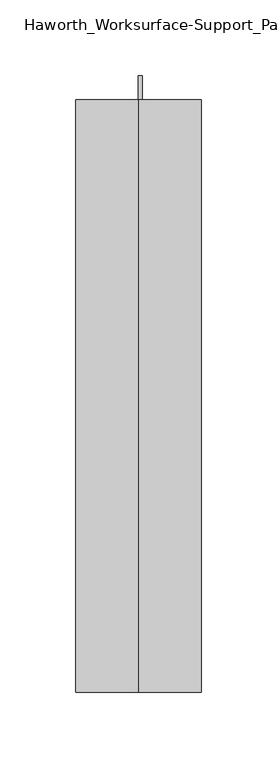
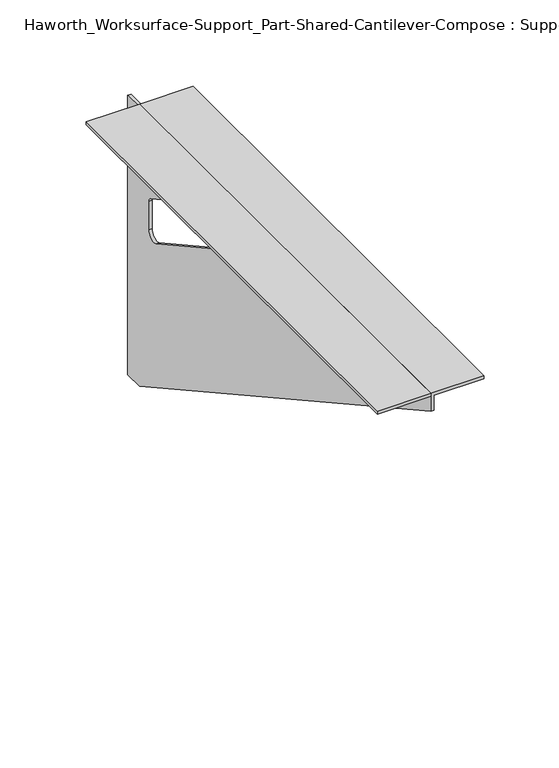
"""IFC4 building model written with IfcOpenShell, lengths in millimetres: furniture geometry, Haworth_Worksurface-Support_Part-Shared-Cantilever-Compose : Support."""

from ifc_helpers import new_model, si_unit, frame, origin, place, context, project, spatial, polyline, circle_curve, outline, extrude, source, transform, mapped, element, save
from ifc_brep_helpers import plane_surface, revolved_surface, advanced_brep


def haworth_worksurface_support_part_shared_cantilever_compose_b6f0c20a(model_context):
    return source(origin(), model_context, "Body", "SolidModel", [
        extrude(outline(polyline([(214.6839452, 165.3715234), (214.6839452, -225.1534766), (173.4089452, -225.1534766), (173.4089452, 165.3715234), (214.6839452, 165.3715234)])), frame((0.0, 0.0, 702.46875), z_axis=(0.0, 0.0, 1.0), x_axis=(1.0, 0.0, 0.0)), (0.0, 0.0, 1.0), 2.38125),
        advanced_brep(
        [(217.090625, 181.2465234, 473.86875), (217.090625, 181.2465234, 702.46875), (217.090625, 165.3715234, 702.46875), (217.090625, -225.1534766, 702.46875), (217.090625, -225.1534766, 690.1317568), (217.090625, 165.3715234, 473.86875), (217.090625, 97.9365954, 664.36875), (217.090625, 101.0128671, 663.5738425), (217.090625, 150.919529, 635.9367776), (217.090625, 152.6715234, 633.0985246), (217.090625, 152.6715234, 609.5881969), (217.090625, 143.3241408, 603.9901439), (217.090625, 51.6029469, 654.7830539), (217.090625, 54.2820519, 664.36875), (214.709375, 181.2465234, 473.86875), (214.709375, 165.3715234, 473.86875), (214.709375, -225.1534766, 690.1317568), (214.709375, -225.1534766, 704.85), (214.709375, 165.3715234, 704.85), (214.709375, 165.3715234, 702.46875), (214.709375, 181.2465234, 702.46875), (214.709375, 97.9365954, 664.36875), (214.709375, 54.2820519, 664.36875), (214.709375, 51.6029469, 654.7830539), (214.709375, 143.3241408, 603.9901439), (214.709375, 152.6715234, 609.5881969), (214.709375, 152.6715234, 633.0985246), (214.709375, 150.919529, 635.9367776), (214.709375, 101.0128671, 663.5738425), (255.984375, -225.1534766, 702.46875), (255.984375, -225.1534766, 704.85), (255.984375, 165.3715234, 702.46875), (255.984375, 165.3715234, 704.85)],
        [
            (0, 1),
            (1, 2),
            (2, 3),
            (3, 4),
            (4, 5),
            (5, 0),
            (6, 7, circle_curve(frame((217.090625, 97.9365954, 658.01875), z_axis=(-1.0, 0.0, 0.0), x_axis=(0.0, -1.0, 0.0)), 6.35)),
            (7, 8),
            (8, 9, circle_curve(frame((217.090625, 149.4965234, 633.0985246), z_axis=(-1.0, 0.0, 0.0), x_axis=(0.0, -1.0, 0.0)), 3.175)),
            (9, 10),
            (10, 11, circle_curve(frame((217.090625, 146.3215234, 609.5881969), z_axis=(-1.0, 0.0, 0.0), x_axis=(0.0, -1.0, 0.0)), 6.35)),
            (11, 12),
            (12, 13, circle_curve(frame((217.090625, 54.2820519, 659.2015106), z_axis=(-1.0, 0.0, 0.0), x_axis=(0.0, -1.0, 0.0)), 5.1672394)),
            (13, 6),
            (14, 15),
            (15, 16),
            (16, 17),
            (17, 18),
            (18, 19),
            (19, 20),
            (20, 14),
            (21, 22),
            (22, 23, circle_curve(frame((214.709375, 54.2820519, 659.2015106), z_axis=(1.0, 0.0, 0.0), x_axis=(0.0, -1.0, 0.0)), 5.1672394)),
            (23, 24),
            (24, 25, circle_curve(frame((214.709375, 146.3215234, 609.5881969), z_axis=(1.0, 0.0, 0.0), x_axis=(0.0, -1.0, 0.0)), 6.35)),
            (25, 26),
            (26, 27, circle_curve(frame((214.709375, 149.4965234, 633.0985246), z_axis=(1.0, 0.0, 0.0), x_axis=(0.0, -1.0, 0.0)), 3.175)),
            (27, 28),
            (28, 21, circle_curve(frame((214.709375, 97.9365954, 658.01875), z_axis=(1.0, 0.0, 0.0), x_axis=(0.0, -1.0, 0.0)), 6.35)),
            (1, 20),
            (19, 2),
            (0, 14),
            (5, 15),
            (4, 16),
            (3, 29),
            (29, 30),
            (30, 17),
            (13, 22),
            (21, 6),
            (10, 25),
            (24, 11),
            (9, 26),
            (8, 27),
            (12, 23),
            (31, 29),
            (2, 31),
            (32, 18),
            (30, 32),
            (32, 31),
            (7, 28),
        ],
        [
            plane_surface(frame((217.090625, 181.2465234, 473.86875), z_axis=(1.0, 0.0, 0.0), x_axis=(0.0, 1.0, 0.0))),
            plane_surface(frame((214.709375, 181.2465234, 473.86875), z_axis=(-1.0, 0.0, 0.0), x_axis=(0.0, -1.0, 0.0))),
            plane_surface(frame((214.709375, -225.1534766, 702.46875), z_axis=(0.0, 0.0, 1.0), x_axis=(1.0, 0.0, 0.0))),
            plane_surface(frame((214.709375, 181.2465234, 702.46875), z_axis=(0.0, 1.0, 0.0), x_axis=(1.0, 0.0, 0.0))),
            plane_surface(frame((214.709375, 181.2465234, 473.86875), z_axis=(0.0, 0.0, -1.0), x_axis=(1.0, 0.0, 0.0))),
            plane_surface(frame((214.709375, 165.3715234, 473.86875), z_axis=(0.0, -0.4844522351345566, -0.8748177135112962), x_axis=(1.0, 0.0, 0.0))),
            plane_surface(frame((214.709375, -225.1534766, 690.1317568), z_axis=(0.0, -1.0, 0.0), x_axis=(1.0, 0.0, 0.0))),
            plane_surface(frame((214.709375, 97.9365954, 664.36875), z_axis=(0.0, 0.0, -1.0), x_axis=(1.0, 0.0, 0.0))),
            revolved_surface(polyline([(217.090625, 139.9715234, 609.5881969), (214.709375, 139.9715234, 609.5881969)]), (214.709375, 146.3215234, 609.5881969), (1.0, 0.0, 0.0)),
            plane_surface(frame((214.709375, 152.6715234, 609.5881969), z_axis=(0.0, -1.0, 0.0), x_axis=(1.0, 0.0, 0.0))),
            revolved_surface(polyline([(217.090625, 146.3215234, 633.0985246), (214.709375, 146.3215234, 633.0985246)]), (214.709375, 149.4965234, 633.0985246), (1.0, 0.0, 0.0)),
            revolved_surface(polyline([(217.090625, 49.1148125, 659.2015106), (214.709375, 49.1148125, 659.2015106)]), (214.709375, 54.2820519, 659.2015106), (1.0, 0.0, 0.0)),
            plane_surface(frame((214.709375, 165.3715234, 702.46875), z_axis=(0.0, 0.0, -1.0), x_axis=(1.0, 0.0, 0.0))),
            plane_surface(frame((214.709375, 165.3715234, 704.85), z_axis=(0.0, 0.0, 1.0), x_axis=(-1.0, 0.0, 0.0))),
            plane_surface(frame((255.984375, 165.3715234, 704.85), z_axis=(0.0, 1.0, 0.0), x_axis=(0.0, 0.0, -1.0))),
            plane_surface(frame((255.984375, -225.1534766, 704.85), z_axis=(1.0, 0.0, 0.0), x_axis=(0.0, 0.0, -1.0))),
            plane_surface(frame((214.709375, 51.6029469, 654.7830539), z_axis=(0.0, 0.4844522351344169, 0.8748177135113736), x_axis=(1.0, 0.0, 0.0))),
            plane_surface(frame((214.709375, 150.919529, 635.9367776), z_axis=(0.0, -0.48445223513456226, -0.874817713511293), x_axis=(1.0, 0.0, 0.0))),
            revolved_surface(polyline([(217.090625, 91.58659540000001, 658.01875), (214.709375, 91.58659540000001, 658.01875)]), (214.709375, 97.9365954, 658.01875), (1.0, 0.0, 0.0)),
        ],
        [
            (0, [[1, 2, 3, 4, 5, 6], [7, 8, 9, 10, 11, 12, 13, 14]]),
            (1, [[15, 16, 17, 18, 19, 20, 21], [22, 23, 24, 25, 26, 27, 28, 29]]),
            (2, [[30, -20, 31, -2]]),
            (3, [[-1, 32, -21, -30]]),
            (4, [[-6, 33, -15, -32]]),
            (5, [[-5, 34, -16, -33]]),
            (6, [[-4, 35, 36, 37, -17, -34]]),
            (7, [[-14, 38, -22, 39]]),
            (8, [[-11, 40, -25, 41]]),
            (9, [[-10, 42, -26, -40]]),
            (10, [[-9, 43, -27, -42]]),
            (11, [[-13, 44, -23, -38]]),
            (12, [[45, -35, -3, 46]]),
            (13, [[47, -18, -37, 48]]),
            (14, [[-47, 49, -46, -31, -19]]),
            (15, [[-45, -49, -48, -36]]),
            (16, [[-12, -41, -24, -44]]),
            (17, [[-8, 50, -28, -43]]),
            (18, [[-7, -39, -29, -50]]),
        ],
    ),
    ])


if __name__ == "__main__":
    model = new_model("IFC4")
    model_context = context("Model", 3, world=origin())
    ifc_project = project(units=[si_unit("LENGTHUNIT", "METRE", prefix="MILLI")], contexts=[model_context])
    site = spatial("IfcSite", under=ifc_project)
    building = spatial("IfcBuilding", under=site)
    placement = place(None, origin())
    haworth_worksurface_support_part_shared_cantilever_compose_shape = haworth_worksurface_support_part_shared_cantilever_compose_b6f0c20a(model_context)
    element("IfcFurniture", 1, ObjectType="Haworth_Worksurface-Support_Part-Shared-Cantilever-Compose : Support", at=placement, inside=building, context=model_context, shape_type="MappedRepresentation", body=[
        mapped(haworth_worksurface_support_part_shared_cantilever_compose_shape, transform((0.0, 0.0, 0.0), x_axis=(1.0, 0.0, 0.0), y_axis=(0.0, 1.0, 0.0), z_axis=(0.0, 0.0, 1.0))),
    ])
    save(model, "model.ifc")
